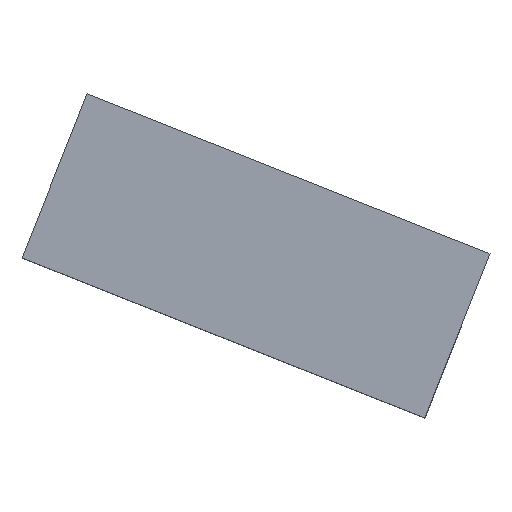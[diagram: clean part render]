
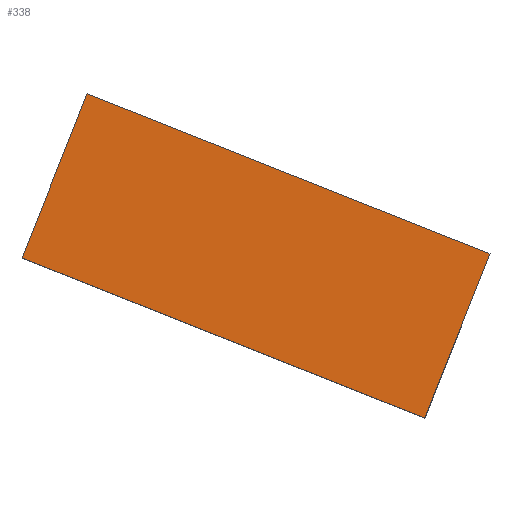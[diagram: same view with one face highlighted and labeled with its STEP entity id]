
A CAD part, top view. The second image highlights one B-rep face of the part: STEP entity #338.
In plain terms, the highlighted planar face has unit normal (0, 0, 1).
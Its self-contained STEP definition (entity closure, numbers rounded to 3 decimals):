
#24 = VERTEX_POINT('',#25);
#25 = CARTESIAN_POINT('',(-242.77,-158.957,36.));
#32 = PLANE('',#33);
#33 = AXIS2_PLACEMENT_3D('',#34,#35,#36);
#34 = CARTESIAN_POINT('',(-242.77,-158.957,31.));
#35 = DIRECTION('',(0.369,0.93,-0.));
#36 = DIRECTION('',(0.93,-0.369,0.));
#44 = PLANE('',#45);
#45 = AXIS2_PLACEMENT_3D('',#46,#47,#48);
#46 = CARTESIAN_POINT('',(-245.72,-166.393,31.));
#47 = DIRECTION('',(-0.93,0.369,0.));
#48 = DIRECTION('',(0.369,0.93,0.));
#56 = EDGE_CURVE('',#24,#57,#59,.T.);
#57 = VERTEX_POINT('',#58);
#58 = CARTESIAN_POINT('',(-224.525,-166.195,36.));
#59 = SURFACE_CURVE('',#60,(#64,#71),.PCURVE_S1.);
#60 = LINE('',#61,#62);
#61 = CARTESIAN_POINT('',(-242.77,-158.957,36.));
#62 = VECTOR('',#63,1.);
#63 = DIRECTION('',(0.93,-0.369,0.));
#64 = PCURVE('',#32,#65);
#65 = DEFINITIONAL_REPRESENTATION('',(#66),#70);
#66 = LINE('',#67,#68);
#67 = CARTESIAN_POINT('',(0.,-5.));
#68 = VECTOR('',#69,1.);
#69 = DIRECTION('',(1.,0.));
#70 = ( GEOMETRIC_REPRESENTATION_CONTEXT(2) 
PARAMETRIC_REPRESENTATION_CONTEXT() REPRESENTATION_CONTEXT('2D SPACE',''
  ) );
#71 = PCURVE('',#72,#77);
#72 = PLANE('',#73);
#73 = AXIS2_PLACEMENT_3D('',#74,#75,#76);
#74 = CARTESIAN_POINT('',(-235.123,-166.294,36.));
#75 = DIRECTION('',(-0.,-0.,-1.));
#76 = DIRECTION('',(-1.,0.,0.));
#77 = DEFINITIONAL_REPRESENTATION('',(#78),#82);
#78 = LINE('',#79,#80);
#79 = CARTESIAN_POINT('',(7.648,7.337));
#80 = VECTOR('',#81,1.);
#81 = DIRECTION('',(-0.93,-0.369));
#82 = ( GEOMETRIC_REPRESENTATION_CONTEXT(2) 
PARAMETRIC_REPRESENTATION_CONTEXT() REPRESENTATION_CONTEXT('2D SPACE',''
  ) );
#100 = PLANE('',#101);
#101 = AXIS2_PLACEMENT_3D('',#102,#103,#104);
#102 = CARTESIAN_POINT('',(-224.525,-166.195,31.));
#103 = DIRECTION('',(0.93,-0.369,0.));
#104 = DIRECTION('',(-0.369,-0.93,0.));
#142 = EDGE_CURVE('',#57,#143,#145,.T.);
#143 = VERTEX_POINT('',#144);
#144 = CARTESIAN_POINT('',(-227.475,-173.632,36.));
#145 = SURFACE_CURVE('',#146,(#150,#157),.PCURVE_S1.);
#146 = LINE('',#147,#148);
#147 = CARTESIAN_POINT('',(-224.525,-166.195,36.));
#148 = VECTOR('',#149,1.);
#149 = DIRECTION('',(-0.369,-0.93,0.));
#150 = PCURVE('',#100,#151);
#151 = DEFINITIONAL_REPRESENTATION('',(#152),#156);
#152 = LINE('',#153,#154);
#153 = CARTESIAN_POINT('',(0.,-5.));
#154 = VECTOR('',#155,1.);
#155 = DIRECTION('',(1.,0.));
#156 = ( GEOMETRIC_REPRESENTATION_CONTEXT(2) 
PARAMETRIC_REPRESENTATION_CONTEXT() REPRESENTATION_CONTEXT('2D SPACE',''
  ) );
#157 = PCURVE('',#72,#158);
#158 = DEFINITIONAL_REPRESENTATION('',(#159),#163);
#159 = LINE('',#160,#161);
#160 = CARTESIAN_POINT('',(-10.598,0.099));
#161 = VECTOR('',#162,1.);
#162 = DIRECTION('',(0.369,-0.93));
#163 = ( GEOMETRIC_REPRESENTATION_CONTEXT(2) 
PARAMETRIC_REPRESENTATION_CONTEXT() REPRESENTATION_CONTEXT('2D SPACE',''
  ) );
#181 = PLANE('',#182);
#182 = AXIS2_PLACEMENT_3D('',#183,#184,#185);
#183 = CARTESIAN_POINT('',(-227.475,-173.632,31.));
#184 = DIRECTION('',(-0.369,-0.93,0.));
#185 = DIRECTION('',(-0.93,0.369,0.));
#218 = EDGE_CURVE('',#143,#219,#221,.T.);
#219 = VERTEX_POINT('',#220);
#220 = CARTESIAN_POINT('',(-245.72,-166.393,36.));
#221 = SURFACE_CURVE('',#222,(#226,#233),.PCURVE_S1.);
#222 = LINE('',#223,#224);
#223 = CARTESIAN_POINT('',(-227.475,-173.632,36.));
#224 = VECTOR('',#225,1.);
#225 = DIRECTION('',(-0.93,0.369,0.));
#226 = PCURVE('',#181,#227);
#227 = DEFINITIONAL_REPRESENTATION('',(#228),#232);
#228 = LINE('',#229,#230);
#229 = CARTESIAN_POINT('',(0.,-5.));
#230 = VECTOR('',#231,1.);
#231 = DIRECTION('',(1.,0.));
#232 = ( GEOMETRIC_REPRESENTATION_CONTEXT(2) 
PARAMETRIC_REPRESENTATION_CONTEXT() REPRESENTATION_CONTEXT('2D SPACE',''
  ) );
#233 = PCURVE('',#72,#234);
#234 = DEFINITIONAL_REPRESENTATION('',(#235),#239);
#235 = LINE('',#236,#237);
#236 = CARTESIAN_POINT('',(-7.648,-7.337));
#237 = VECTOR('',#238,1.);
#238 = DIRECTION('',(0.93,0.369));
#239 = ( GEOMETRIC_REPRESENTATION_CONTEXT(2) 
PARAMETRIC_REPRESENTATION_CONTEXT() REPRESENTATION_CONTEXT('2D SPACE',''
  ) );
#289 = EDGE_CURVE('',#219,#24,#290,.T.);
#290 = SURFACE_CURVE('',#291,(#295,#302),.PCURVE_S1.);
#291 = LINE('',#292,#293);
#292 = CARTESIAN_POINT('',(-245.72,-166.393,36.));
#293 = VECTOR('',#294,1.);
#294 = DIRECTION('',(0.369,0.93,0.));
#295 = PCURVE('',#44,#296);
#296 = DEFINITIONAL_REPRESENTATION('',(#297),#301);
#297 = LINE('',#298,#299);
#298 = CARTESIAN_POINT('',(0.,-5.));
#299 = VECTOR('',#300,1.);
#300 = DIRECTION('',(1.,0.));
#301 = ( GEOMETRIC_REPRESENTATION_CONTEXT(2) 
PARAMETRIC_REPRESENTATION_CONTEXT() REPRESENTATION_CONTEXT('2D SPACE',''
  ) );
#302 = PCURVE('',#72,#303);
#303 = DEFINITIONAL_REPRESENTATION('',(#304),#308);
#304 = LINE('',#305,#306);
#305 = CARTESIAN_POINT('',(10.598,-0.099));
#306 = VECTOR('',#307,1.);
#307 = DIRECTION('',(-0.369,0.93));
#308 = ( GEOMETRIC_REPRESENTATION_CONTEXT(2) 
PARAMETRIC_REPRESENTATION_CONTEXT() REPRESENTATION_CONTEXT('2D SPACE',''
  ) );
#338 = ADVANCED_FACE('',(#339),#72,.F.);
#339 = FACE_BOUND('',#340,.F.);
#340 = EDGE_LOOP('',(#341,#342,#343,#344));
#341 = ORIENTED_EDGE('',*,*,#56,.T.);
#342 = ORIENTED_EDGE('',*,*,#142,.T.);
#343 = ORIENTED_EDGE('',*,*,#218,.T.);
#344 = ORIENTED_EDGE('',*,*,#289,.T.);
